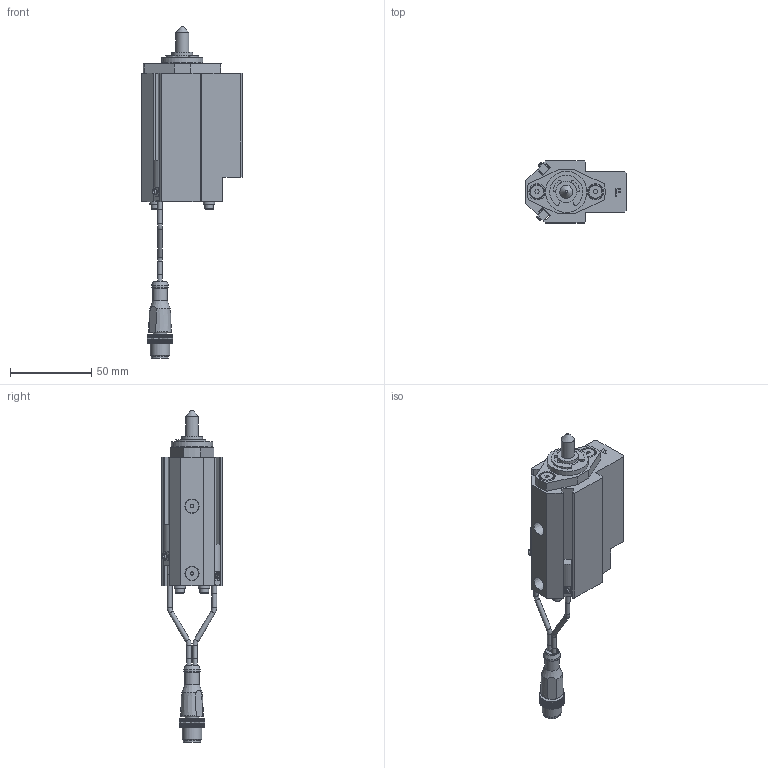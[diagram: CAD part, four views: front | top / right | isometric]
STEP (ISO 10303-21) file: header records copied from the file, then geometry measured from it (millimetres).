
FILE_DESCRIPTION(/* description */ ('NAAMS FLOATING MICRO PIN'),/* implementation_level */ '2;1');
FILE_NAME(/* name */ 'C:\Vault Workspace\CAD\Welker\Shot Pin\NMP\NMP080012FANL3.stp',/* time_stamp */ '2021-01-27T08:32:25-05:00',/* author */ ('WELKER'),/* organization */ (''),/* preprocessor_version */ 'ST-DEVELOPER v18.1',/* originating_system */ 'Autodesk Inventor 2020',/* authorisation */ '');
FILE_SCHEMA (('AUTOMOTIVE_DESIGN { 1 0 10303 214 3 1 1 }'));
Length unit declared in the file: millimetre
Products named in the file (16): NMPL01; NMP L3 SWITCH; L3 Connector; L3 Sensor 1; L3 Sensor 2; L3 Sensor cable; L3 Sensor cable 2; M3X0.5-8 SHCS; NL3; NMPE06; NMPE03; NMPE05-DIA-LENGTH; 985432A218; NMPE01F-PORT; RMPE02; M5X5 SHOULDER
Assembly tree (22 placements, depth 3):
  NMPL01
    NMP L3 SWITCH
      L3 Connector
      L3 Sensor 1
      L3 Sensor 2
      L3 Sensor cable
      L3 Sensor cable 2
    M3X0.5-8 SHCS  x4
    NL3  x4
    NMPE06
    NMPE03
    NMPE05-DIA-LENGTH
    985432A218
    NMPE01F-PORT
    RMPE02
    M5X5 SHOULDER  x2
Bounding box: 62 x 38.1 x 204.73 mm (x, y, z)
Volume: 112127.6 mm3; surface area: 44667.7 mm2
Topology: 21 solids, 21 shells, 746 faces, 2022 edges, 1352 vertices
Faces by surface type: plane 551, cylinder 144, cone 35, torus 11, sphere 3, bspline 2
Full cylindrical faces by diameter (mm): 2 x2, 2.459 x4, 2.9 x10, 3 x5, 3.242 x2, 3.4 x4, 4 x2, 5 x6, 5.5 x4, 7 x4, 8 x3, 8.3 x2, 8.376 x2, 9 x3, 10 x3, 10.4 x1, 10.5 x1, 12 x1, 13 x3, 16 x2, 19.05 x3, 21 x1, 22.5 x1, 23.672 x1, 24 x1, 25.4 x1, 25.5 x1, 26.5 x1, 28.677 x1, 29.21 x1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
Entity records: 22784 total; most frequent: CARTESIAN_POINT 4167, ORIENTED_EDGE 3738, DIRECTION 3725, EDGE_CURVE 1869, LINE 1381, VECTOR 1381, VERTEX_POINT 1257, AXIS2_PLACEMENT_3D 1172
